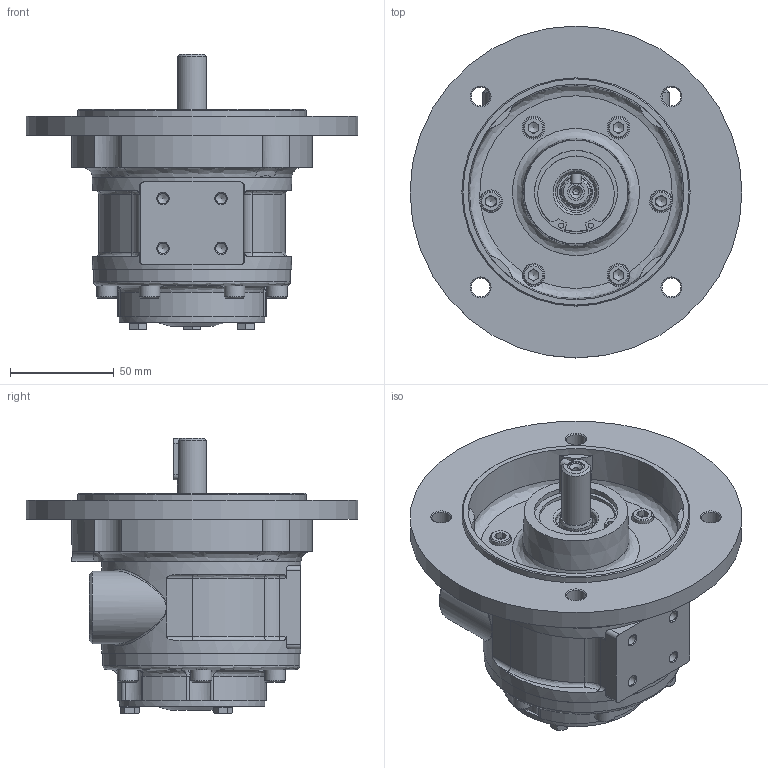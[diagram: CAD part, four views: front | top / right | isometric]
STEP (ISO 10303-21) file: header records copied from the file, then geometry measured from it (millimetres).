
FILE_DESCRIPTION (( 'STEP AP214' ), '1' );
FILE_NAME ('VS4C Defeature.STEP', '2022-06-14T10:44:26', ( '' ), ( '' ), 'SwSTEP 2.0', 'SolidWorks 2020', '' );
FILE_SCHEMA (( 'AUTOMOTIVE_DESIGN' ));
Length unit declared in the file: millimetre
Products named in the file (1): VS4C Defeature
Bounding box: 160 x 160 x 132.7 mm (x, y, z)
Volume: 729841.3 mm3; surface area: 97302 mm2
Topology: 1 solids, 2 shells, 539 faces, 1334 edges, 804 vertices
Faces by surface type: plane 277, cylinder 126, cone 70, bspline 66
Full cylindrical faces by diameter (mm): 2.5 x2, 3 x1, 5 x4, 8 x4, 9 x4, 10 x12, 11 x6, 14 x1, 15.85 x1, 18 x1, 18.631 x2, 19.8 x1, 21.3 x1, 35 x2, 38.25 x1, 40 x2, 42.5 x1, 70 x1, 95 x2, 96 x2, 110 x1, 160 x1
Entity records: 21774 total; most frequent: CARTESIAN_POINT 8195, DIRECTION 2337, ORIENTED_EDGE 2258, EDGE_CURVE 1129, AXIS2_PLACEMENT_3D 922, VERTEX_POINT 726, EDGE_LOOP 693, FACE_OUTER_BOUND 601
